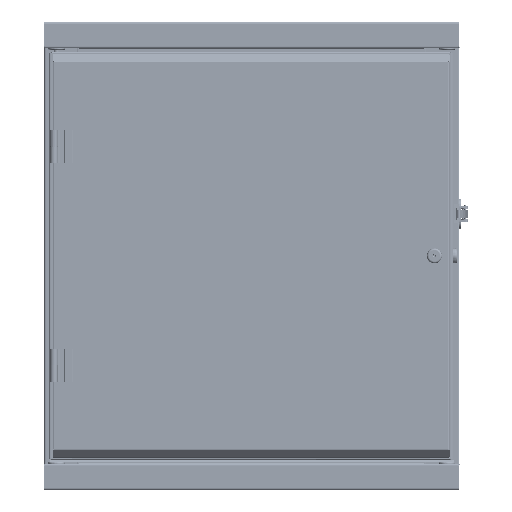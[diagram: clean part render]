
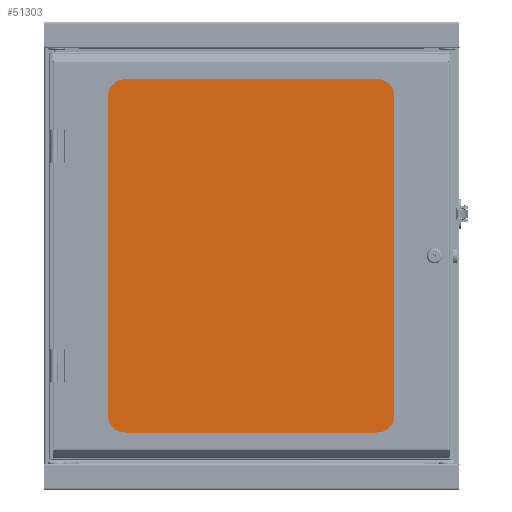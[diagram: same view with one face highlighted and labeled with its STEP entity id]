
A CAD part, front view. The second image highlights one B-rep face of the part: STEP entity #51303.
In plain terms, the highlighted planar face has unit normal (0, -1, 0) as drawn and (0, 1, 0) by its records, which use the part's own axes.
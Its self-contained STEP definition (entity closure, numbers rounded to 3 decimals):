
#4219=LINE('',#86679,#8941);
#4222=LINE('',#86685,#8944);
#4225=LINE('',#86691,#8947);
#4228=LINE('',#86696,#8950);
#8941=VECTOR('',#68641,1000.);
#8944=VECTOR('',#68646,1000.);
#8947=VECTOR('',#68651,1000.);
#8950=VECTOR('',#68656,1000.);
#22703=ORIENTED_EDGE('',*,*,#31389,.F.);
#22704=ORIENTED_EDGE('',*,*,#31398,.F.);
#22705=ORIENTED_EDGE('',*,*,#31395,.F.);
#22706=ORIENTED_EDGE('',*,*,#31392,.F.);
#31389=EDGE_CURVE('',#36752,#36753,#4219,.T.);
#31392=EDGE_CURVE('',#36753,#36755,#4222,.T.);
#31395=EDGE_CURVE('',#36755,#36757,#4225,.T.);
#31398=EDGE_CURVE('',#36757,#36752,#4228,.T.);
#36752=VERTEX_POINT('',#86678);
#36753=VERTEX_POINT('',#86680);
#36755=VERTEX_POINT('',#86686);
#36757=VERTEX_POINT('',#86692);
#42958=EDGE_LOOP('',(#22703,#22704,#22705,#22706));
#46783=FACE_BOUND('',#42958,.T.);
#48762=PLANE('',#56135);
#51303=ADVANCED_FACE('',(#46783),#48762,.F.);
#56135=AXIS2_PLACEMENT_3D('',#86697,#68657,#68658);
#68641=DIRECTION('',(-1.,0.,0.));
#68646=DIRECTION('',(0.,0.,-1.));
#68651=DIRECTION('',(1.,0.,0.));
#68656=DIRECTION('',(0.,0.,1.));
#68657=DIRECTION('',(0.,-1.,0.));
#68658=DIRECTION('',(0.,0.,-1.));
#86678=CARTESIAN_POINT('',(233.363,1.448,284.163));
#86679=CARTESIAN_POINT('',(233.363,1.448,284.163));
#86680=CARTESIAN_POINT('',(-233.363,1.448,284.163));
#86685=CARTESIAN_POINT('',(-233.363,1.448,284.163));
#86686=CARTESIAN_POINT('',(-233.363,1.448,-284.163));
#86691=CARTESIAN_POINT('',(-233.363,1.448,-284.163));
#86692=CARTESIAN_POINT('',(233.363,1.448,-284.163));
#86696=CARTESIAN_POINT('',(233.363,1.448,-284.163));
#86697=CARTESIAN_POINT('',(-233.363,1.448,284.163));
